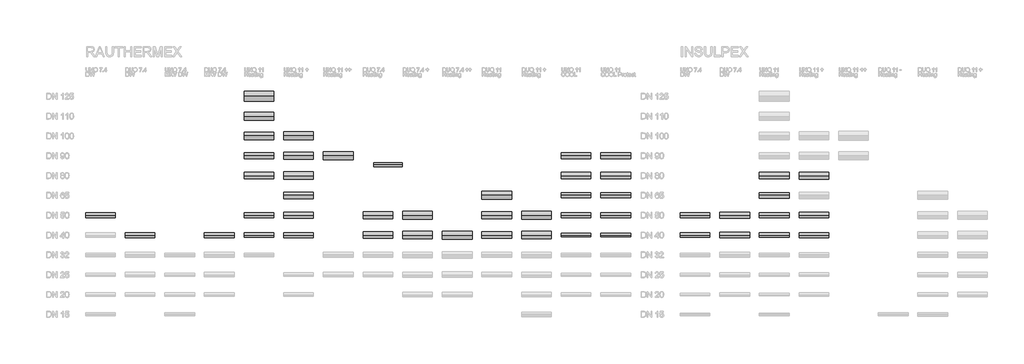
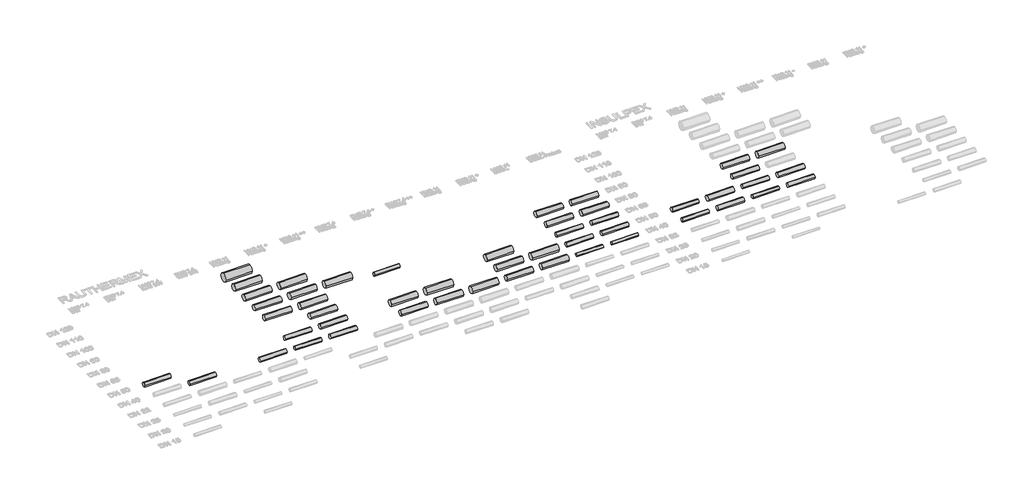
# One storey, part 6 of 44: 49 pipe segments.
"""IFC4 building model written with IfcOpenShell, lengths in millimetres."""

import ifcopenshell
import ifcopenshell.guid

model = None  # the IFC model being written
_history = None  # IfcOwnerHistory: only IFC2X3 demands one
_inside = {}  # id of a spatial element -> (the spatial element, [elements in it])
_under = {}  # id of a project, library or spatial element -> (it, [spatial elements below it])
_declared = {}  # id of a project -> (the project, [libraries it declares])
_typed = {}  # id of a type object -> (the type object, [elements of that type])
_made_of = {}  # id of a material, layer set ... -> (it, [elements and type objects made of it])


def new_model(schema):
    """Start an empty IFC model of exactly this schema.

    Asked for "IFC4X3", IfcOpenShell would pick the latest addendum, in which some entities
    have other attributes; the version numbers below select the first issue.
    IFC2X3 requires an IfcOwnerHistory on every rooted entity: one is made here for all.
    """
    global model, _history
    if schema == "IFC4X3":
        model = ifcopenshell.file(schema_version=(4, 3, 0, 0))
    else:
        model = ifcopenshell.file(schema=schema)
    _inside.clear()
    _under.clear()
    _declared.clear()
    _typed.clear()
    _made_of.clear()
    _history = None
    if model.schema == "IFC2X3":
        org = make("IfcOrganization", Name="unknown")
        user = make(
            "IfcPersonAndOrganization",
            ThePerson=make("IfcPerson", FamilyName="unknown"),
            TheOrganization=org,
        )
        app = make(
            "IfcApplication",
            ApplicationDeveloper=org,
            Version="unknown",
            ApplicationFullName="unknown",
            ApplicationIdentifier="unknown",
        )
        _history = make(
            "IfcOwnerHistory",
            OwningUser=user,
            OwningApplication=app,
            ChangeAction="ADDED",
            CreationDate=0,
        )
    return model


def make(cls, **values):
    """One entity of the class cls with the attributes given. An attribute that is None is left unset."""
    return model.create_entity(
        cls, **{name: value for name, value in values.items() if value is not None}
    )


def rooted(cls, **values):
    """An entity with a GlobalId (a new one), such as an element, a storey or a relation."""
    return make(cls, GlobalId=ifcopenshell.guid.new(), OwnerHistory=_history, **values)


def si_unit(unit_type, name, prefix=None):
    """IfcSIUnit, for example si_unit("LENGTHUNIT", "METRE", prefix="MILLI")."""
    return make("IfcSIUnit", UnitType=unit_type, Prefix=prefix, Name=name)


def assignment(units):
    """IfcUnitAssignment: the units of a project."""
    return None if units is None else make("IfcUnitAssignment", Units=units)


def point(xyz):
    """IfcCartesianPoint."""
    return None if xyz is None else make("IfcCartesianPoint", Coordinates=xyz)


def direction(xyz):
    """IfcDirection."""
    return None if xyz is None else make("IfcDirection", DirectionRatios=xyz)


def frame(location, z_axis=None, x_axis=None):
    """IfcAxis2Placement3D, a coordinate frame: its origin and axes. An axis left out is left unset."""
    return make(
        "IfcAxis2Placement3D",
        Location=point(location),
        Axis=direction(z_axis),
        RefDirection=direction(x_axis),
    )


def frame_2d(location, x_axis=None):
    """IfcAxis2Placement2D, a coordinate frame in the plane: its origin and x axis."""
    return make(
        "IfcAxis2Placement2D", Location=point(location), RefDirection=direction(x_axis)
    )


def origin():
    """The frame at (0, 0, 0) with its axes left unset."""
    return frame((0.0, 0.0, 0.0))


def place(relative_to, where):
    """IfcLocalPlacement: puts the frame where relative to a parent placement (None: the world)."""
    return make(
        "IfcLocalPlacement", PlacementRelTo=relative_to, RelativePlacement=where
    )


def context(
    kind, dimensions, precision=None, world=None, true_north=None, identifier=None
):
    """IfcGeometricRepresentationContext, for example the 3D "Model" context."""
    return make(
        "IfcGeometricRepresentationContext",
        ContextIdentifier=identifier,
        ContextType=kind,
        CoordinateSpaceDimension=dimensions,
        Precision=precision,
        WorldCoordinateSystem=world,
        TrueNorth=true_north,
    )


def project(units=None, contexts=None):
    """IfcProject with its units and contexts."""
    return rooted(
        "IfcProject",
        Name="project",
        RepresentationContexts=contexts,
        UnitsInContext=assignment(units),
    )


def spatial(cls, under=None, at=None, **own):
    """A site, building, storey or space (cls), placed at a placement, below another one or the project."""
    s = rooted(cls, ObjectPlacement=at, **own)
    if under is not None:
        _under.setdefault(under.id(), (under, []))[1].append(s)
    return s


def circle_curve(where, radius):
    """IfcCircle in the frame where."""
    return make("IfcCircle", Position=where, Radius=radius)


def trimmed(basis, trim1, trim2, sense, master):
    """IfcTrimmedCurve: the piece of a basis curve between two trims."""
    return make(
        "IfcTrimmedCurve",
        BasisCurve=basis,
        Trim1=trim1,
        Trim2=trim2,
        SenseAgreement=sense,
        MasterRepresentation=master,
    )


def segment(curve, same_sense, transition):
    """IfcCompositeCurveSegment."""
    return make(
        "IfcCompositeCurveSegment",
        Transition=transition,
        SameSense=same_sense,
        ParentCurve=curve,
    )


def composite_curve(segments, self_intersect=None):
    """IfcCompositeCurve: segments joined end to end."""
    return make("IfcCompositeCurve", Segments=segments, SelfIntersect=self_intersect)


def outline(outer, holes=None, kind="AREA"):
    """IfcArbitraryClosedProfileDef: a profile drawn as a closed curve; with holes, ...WithVoids."""
    if holes is None:
        return make("IfcArbitraryClosedProfileDef", ProfileType=kind, OuterCurve=outer)
    return make(
        "IfcArbitraryProfileDefWithVoids",
        ProfileType=kind,
        OuterCurve=outer,
        InnerCurves=holes,
    )


def extrude(swept, where, along, depth):
    """IfcExtrudedAreaSolid: the profile swept, set in the frame where, extruded along a direction by depth."""
    return make(
        "IfcExtrudedAreaSolid",
        SweptArea=swept,
        Position=where,
        ExtrudedDirection=direction(along),
        Depth=depth,
    )


def shape(context_of_items, identifier, shape_type, items):
    """IfcShapeRepresentation: the items that make up one representation, for example the "Body"."""
    return make(
        "IfcShapeRepresentation",
        ContextOfItems=context_of_items,
        RepresentationIdentifier=identifier,
        RepresentationType=shape_type,
        Items=items,
    )


def made_of(thing, what):
    """Note that an element or type object is made of a material, layer set ...; save() writes the relation."""
    if what is not None:
        _made_of.setdefault(what.id(), (what, []))[1].append(thing)
    return thing


def element(
    cls,
    number,
    at=None,
    inside=None,
    cuts=None,
    type_object=None,
    material=None,
    context=None,
    identifier="Body",
    shape_type=None,
    held_by="IfcProductDefinitionShape",
    body=None,
    shapes=None,
    **own,
):
    """One element of the class cls, such as IfcWall. Its Tag is "e" and its number.

    at: its placement. inside: the storey or other place that contains it. cuts: it is an
    opening in that element (IfcRelVoidsElement). A single representation is given by context,
    identifier, shape_type and body (its items); several are given by shapes. held_by: the class
    of the entity that holds the representations. save() writes the other relations.
    """
    e = rooted(cls, Tag="e%d" % number, ObjectPlacement=at, **own)
    if body is not None:
        shapes = [shape(context, identifier, shape_type, body)]
    if shapes is not None:
        e.Representation = make(held_by, Representations=shapes)
    if inside is not None:
        _inside.setdefault(inside.id(), (inside, []))[1].append(e)
    if cuts is not None:
        rooted(
            "IfcRelVoidsElement", RelatingBuildingElement=cuts, RelatedOpeningElement=e
        )
    if type_object is not None:
        _typed.setdefault(type_object.id(), (type_object, []))[1].append(e)
    return made_of(e, material)


def aggregate(whole, parts):
    """IfcRelAggregates: a whole, such as a stair, and the parts it consists of."""
    return rooted("IfcRelAggregates", RelatingObject=whole, RelatedObjects=parts)


def save(model, path):
    """Write the relations noted so far, then the file.

    IfcRelAggregates (storeys below a building ...), IfcRelContainedInSpatialStructure (elements
    in a storey), IfcRelDefinesByType, IfcRelAssociatesMaterial and IfcRelDeclares: one each for
    every whole, place, type object, material and project.
    """
    for whole, parts in _under.values():
        aggregate(whole, parts)
    for where, things in _inside.values():
        rooted(
            "IfcRelContainedInSpatialStructure",
            RelatedElements=things,
            RelatingStructure=where,
        )
    for kind, things in _typed.values():
        rooted("IfcRelDefinesByType", RelatedObjects=things, RelatingType=kind)
    for what, things in _made_of.values():
        rooted("IfcRelAssociatesMaterial", RelatedObjects=things, RelatingMaterial=what)
    for by, libraries in _declared.values():
        rooted("IfcRelDeclares", RelatingContext=by, RelatedDefinitions=libraries)
    model.write(path)


model = new_model("IFC4")

# Units and contexts
model_context = context("Model", 3, world=origin())
ifc_project = project(units=[si_unit("LENGTHUNIT", "METRE", prefix="MILLI")], contexts=[model_context])

# Site, building, storey
site = spatial("IfcSite", under=ifc_project)
building = spatial("IfcBuilding", under=site)
storey = spatial("IfcBuildingStorey", under=building, Name="REHAU Starting view", Elevation=0.0)

# Pipe segments
placement = place(None, origin())
element("IfcPipeSegment", 1, ObjectType="RAUTHERMEX UNO 7.4 DW", at=placement, inside=storey, context=model_context, shape_type="SweptSolid", body=[
    extrude(outline(composite_curve([segment(trimmed(circle_curve(frame_2d((16500.0, 0.0)), 63.0), [point((16437.0, 0.0))], [point((16500.0, 63.0))], False, "CARTESIAN"), True, "CONTINUOUS"), segment(trimmed(circle_curve(frame_2d((16500.0, 0.0)), 63.0), [point((16500.0, 63.0))], [point((16563.0, 0.0))], False, "CARTESIAN"), True, "CONTINUOUS"), segment(trimmed(circle_curve(frame_2d((16500.0, 0.0)), 63.0), [point((16563.0, 0.0))], [point((16500.0, -63.0))], False, "CARTESIAN"), True, "CONTINUOUS"), segment(trimmed(circle_curve(frame_2d((16500.0, 0.0)), 63.0), [point((16500.0, -63.0))], [point((16437.0, 0.0))], False, "CARTESIAN"), True, "CONTINUOUS")], self_intersect=False)), frame((1000.0, 0.0, 0.0), z_axis=(1.0, 0.0, 0.0), x_axis=(0.0, 1.0, 0.0)), (0.0, 0.0, 1.0), 750.0),
])
element("IfcPipeSegment", 2, ObjectType="RAUTHERMEX DUO 7.4 DW", at=placement, inside=storey, context=model_context, shape_type="SweptSolid", body=[
    extrude(outline(composite_curve([segment(trimmed(circle_curve(frame_2d((16000.0, 0.0)), 63.0), [point((15937.0, 0.0))], [point((16000.0, 63.0))], False, "CARTESIAN"), True, "CONTINUOUS"), segment(trimmed(circle_curve(frame_2d((16000.0, 0.0)), 63.0), [point((16000.0, 63.0))], [point((16063.0, 0.0))], False, "CARTESIAN"), True, "CONTINUOUS"), segment(trimmed(circle_curve(frame_2d((16000.0, 0.0)), 63.0), [point((16063.0, 0.0))], [point((16000.0, -63.0))], False, "CARTESIAN"), True, "CONTINUOUS"), segment(trimmed(circle_curve(frame_2d((16000.0, 0.0)), 63.0), [point((16000.0, -63.0))], [point((15937.0, 0.0))], False, "CARTESIAN"), True, "CONTINUOUS")], self_intersect=False)), frame((2000.0, 0.0, 0.0), z_axis=(1.0, 0.0, 0.0), x_axis=(0.0, 1.0, 0.0)), (0.0, 0.0, 1.0), 750.0),
])
element("IfcPipeSegment", 3, ObjectType="RAUTHERMEX DUO 7.4 MKV DW", at=placement, inside=storey, context=model_context, shape_type="SweptSolid", body=[
    extrude(outline(composite_curve([segment(trimmed(circle_curve(frame_2d((16000.0, 0.0)), 63.0), [point((15937.0, 0.0))], [point((16000.0, 63.0))], False, "CARTESIAN"), True, "CONTINUOUS"), segment(trimmed(circle_curve(frame_2d((16000.0, 0.0)), 63.0), [point((16000.0, 63.0))], [point((16063.0, 0.0))], False, "CARTESIAN"), True, "CONTINUOUS"), segment(trimmed(circle_curve(frame_2d((16000.0, 0.0)), 63.0), [point((16063.0, 0.0))], [point((16000.0, -63.0))], False, "CARTESIAN"), True, "CONTINUOUS"), segment(trimmed(circle_curve(frame_2d((16000.0, 0.0)), 63.0), [point((16000.0, -63.0))], [point((15937.0, 0.0))], False, "CARTESIAN"), True, "CONTINUOUS")], self_intersect=False)), frame((4000.0, 0.0, 0.0), z_axis=(1.0, 0.0, 0.0), x_axis=(0.0, 1.0, 0.0)), (0.0, 0.0, 1.0), 750.0),
])
element("IfcPipeSegment", 4, ObjectType="RAUTHERMEX UNO 11 Heating", at=placement, inside=storey, context=model_context, shape_type="SweptSolid", body=[
    extrude(outline(composite_curve([segment(trimmed(circle_curve(frame_2d((16000.0, 0.0)), 55.5), [point((15944.5, 0.0))], [point((16000.0, 55.5))], False, "CARTESIAN"), True, "CONTINUOUS"), segment(trimmed(circle_curve(frame_2d((16000.0, 0.0)), 55.5), [point((16000.0, 55.5))], [point((16055.5, 0.0))], False, "CARTESIAN"), True, "CONTINUOUS"), segment(trimmed(circle_curve(frame_2d((16000.0, 0.0)), 55.5), [point((16055.5, 0.0))], [point((16000.0, -55.5))], False, "CARTESIAN"), True, "CONTINUOUS"), segment(trimmed(circle_curve(frame_2d((16000.0, 0.0)), 55.5), [point((16000.0, -55.5))], [point((15944.5, 0.0))], False, "CARTESIAN"), True, "CONTINUOUS")], self_intersect=False)), frame((5000.0, 0.0, 0.0), z_axis=(1.0, 0.0, 0.0), x_axis=(0.0, 1.0, 0.0)), (0.0, 0.0, 1.0), 750.0),
])
element("IfcPipeSegment", 5, ObjectType="RAUTHERMEX UNO 11 Heating", at=placement, inside=storey, context=model_context, shape_type="SweptSolid", body=[
    extrude(outline(composite_curve([segment(trimmed(circle_curve(frame_2d((16500.0, 0.0)), 63.0), [point((16437.0, 0.0))], [point((16500.0, 63.0))], False, "CARTESIAN"), True, "CONTINUOUS"), segment(trimmed(circle_curve(frame_2d((16500.0, 0.0)), 63.0), [point((16500.0, 63.0))], [point((16563.0, 0.0))], False, "CARTESIAN"), True, "CONTINUOUS"), segment(trimmed(circle_curve(frame_2d((16500.0, 0.0)), 63.0), [point((16563.0, 0.0))], [point((16500.0, -63.0))], False, "CARTESIAN"), True, "CONTINUOUS"), segment(trimmed(circle_curve(frame_2d((16500.0, 0.0)), 63.0), [point((16500.0, -63.0))], [point((16437.0, 0.0))], False, "CARTESIAN"), True, "CONTINUOUS")], self_intersect=False)), frame((5000.0, 0.0, 0.0), z_axis=(1.0, 0.0, 0.0), x_axis=(0.0, 1.0, 0.0)), (0.0, 0.0, 1.0), 750.0),
])
element("IfcPipeSegment", 6, ObjectType="RAUTHERMEX UNO 11 Heating", at=placement, inside=storey, context=model_context, shape_type="SweptSolid", body=[
    extrude(outline(composite_curve([segment(trimmed(circle_curve(frame_2d((17500.0, 0.0)), 81.0), [point((17419.0, 0.0))], [point((17500.0, 81.0))], False, "CARTESIAN"), True, "CONTINUOUS"), segment(trimmed(circle_curve(frame_2d((17500.0, 0.0)), 81.0), [point((17500.0, 81.0))], [point((17581.0, 0.0))], False, "CARTESIAN"), True, "CONTINUOUS"), segment(trimmed(circle_curve(frame_2d((17500.0, 0.0)), 81.0), [point((17581.0, 0.0))], [point((17500.0, -81.0))], False, "CARTESIAN"), True, "CONTINUOUS"), segment(trimmed(circle_curve(frame_2d((17500.0, 0.0)), 81.0), [point((17500.0, -81.0))], [point((17419.0, 0.0))], False, "CARTESIAN"), True, "CONTINUOUS")], self_intersect=False)), frame((5000.0, 0.0, 0.0), z_axis=(1.0, 0.0, 0.0), x_axis=(0.0, 1.0, 0.0)), (0.0, 0.0, 1.0), 750.0),
])
element("IfcPipeSegment", 7, ObjectType="RAUTHERMEX UNO 11 Heating", at=placement, inside=storey, context=model_context, shape_type="SweptSolid", body=[
    extrude(outline(composite_curve([segment(trimmed(circle_curve(frame_2d((18000.0, 0.0)), 81.0), [point((17919.0, 0.0))], [point((18000.0, 81.0))], False, "CARTESIAN"), True, "CONTINUOUS"), segment(trimmed(circle_curve(frame_2d((18000.0, 0.0)), 81.0), [point((18000.0, 81.0))], [point((18081.0, 0.0))], False, "CARTESIAN"), True, "CONTINUOUS"), segment(trimmed(circle_curve(frame_2d((18000.0, 0.0)), 81.0), [point((18081.0, 0.0))], [point((18000.0, -81.0))], False, "CARTESIAN"), True, "CONTINUOUS"), segment(trimmed(circle_curve(frame_2d((18000.0, 0.0)), 81.0), [point((18000.0, -81.0))], [point((17919.0, 0.0))], False, "CARTESIAN"), True, "CONTINUOUS")], self_intersect=False)), frame((5000.0, 0.0, 0.0), z_axis=(1.0, 0.0, 0.0), x_axis=(0.0, 1.0, 0.0)), (0.0, 0.0, 1.0), 750.0),
])
element("IfcPipeSegment", 8, ObjectType="RAUTHERMEX UNO 11 Heating", at=placement, inside=storey, context=model_context, shape_type="SweptSolid", body=[
    extrude(outline(composite_curve([segment(trimmed(circle_curve(frame_2d((18500.0, 0.0)), 91.0), [point((18409.0, 0.0))], [point((18500.0, 91.0))], False, "CARTESIAN"), True, "CONTINUOUS"), segment(trimmed(circle_curve(frame_2d((18500.0, 0.0)), 91.0), [point((18500.0, 91.0))], [point((18591.0, 0.0))], False, "CARTESIAN"), True, "CONTINUOUS"), segment(trimmed(circle_curve(frame_2d((18500.0, 0.0)), 91.0), [point((18591.0, 0.0))], [point((18500.0, -91.0))], False, "CARTESIAN"), True, "CONTINUOUS"), segment(trimmed(circle_curve(frame_2d((18500.0, 0.0)), 91.0), [point((18500.0, -91.0))], [point((18409.0, 0.0))], False, "CARTESIAN"), True, "CONTINUOUS")], self_intersect=False)), frame((5000.0, 0.0, 0.0), z_axis=(1.0, 0.0, 0.0), x_axis=(0.0, 1.0, 0.0)), (0.0, 0.0, 1.0), 750.0),
])
element("IfcPipeSegment", 9, ObjectType="RAUTHERMEX UNO 11 Heating", at=placement, inside=storey, context=model_context, shape_type="SweptSolid", body=[
    extrude(outline(composite_curve([segment(trimmed(circle_curve(frame_2d((19000.0, 0.0)), 101.0), [point((18899.0, 0.0))], [point((19000.0, 101.0))], False, "CARTESIAN"), True, "CONTINUOUS"), segment(trimmed(circle_curve(frame_2d((19000.0, 0.0)), 101.0), [point((19000.0, 101.0))], [point((19101.0, 0.0))], False, "CARTESIAN"), True, "CONTINUOUS"), segment(trimmed(circle_curve(frame_2d((19000.0, 0.0)), 101.0), [point((19101.0, 0.0))], [point((19000.0, -101.0))], False, "CARTESIAN"), True, "CONTINUOUS"), segment(trimmed(circle_curve(frame_2d((19000.0, 0.0)), 101.0), [point((19000.0, -101.0))], [point((18899.0, 0.0))], False, "CARTESIAN"), True, "CONTINUOUS")], self_intersect=False)), frame((5000.0, 0.0, 0.0), z_axis=(1.0, 0.0, 0.0), x_axis=(0.0, 1.0, 0.0)), (0.0, 0.0, 1.0), 750.0),
])
element("IfcPipeSegment", 10, ObjectType="RAUTHERMEX UNO 11 Heating", at=placement, inside=storey, context=model_context, shape_type="SweptSolid", body=[
    extrude(outline(composite_curve([segment(trimmed(circle_curve(frame_2d((19500.0, 0.0)), 125.0), [point((19375.0, 0.0))], [point((19500.0, 125.0))], False, "CARTESIAN"), True, "CONTINUOUS"), segment(trimmed(circle_curve(frame_2d((19500.0, 0.0)), 125.0), [point((19500.0, 125.0))], [point((19625.0, 0.0))], False, "CARTESIAN"), True, "CONTINUOUS"), segment(trimmed(circle_curve(frame_2d((19500.0, 0.0)), 125.0), [point((19625.0, 0.0))], [point((19500.0, -125.0))], False, "CARTESIAN"), True, "CONTINUOUS"), segment(trimmed(circle_curve(frame_2d((19500.0, 0.0)), 125.0), [point((19500.0, -125.0))], [point((19375.0, 0.0))], False, "CARTESIAN"), True, "CONTINUOUS")], self_intersect=False)), frame((5000.0, 0.0, 0.0), z_axis=(1.0, 0.0, 0.0), x_axis=(0.0, 1.0, 0.0)), (0.0, 0.0, 1.0), 750.0),
])
element("IfcPipeSegment", 11, ObjectType="RAUTHERMEX UNO + 11 Heating", at=placement, inside=storey, context=model_context, shape_type="SweptSolid", body=[
    extrude(outline(composite_curve([segment(trimmed(circle_curve(frame_2d((16000.0, 0.0)), 63.0), [point((15937.0, 0.0))], [point((16000.0, 63.0))], False, "CARTESIAN"), True, "CONTINUOUS"), segment(trimmed(circle_curve(frame_2d((16000.0, 0.0)), 63.0), [point((16000.0, 63.0))], [point((16063.0, 0.0))], False, "CARTESIAN"), True, "CONTINUOUS"), segment(trimmed(circle_curve(frame_2d((16000.0, 0.0)), 63.0), [point((16063.0, 0.0))], [point((16000.0, -63.0))], False, "CARTESIAN"), True, "CONTINUOUS"), segment(trimmed(circle_curve(frame_2d((16000.0, 0.0)), 63.0), [point((16000.0, -63.0))], [point((15937.0, 0.0))], False, "CARTESIAN"), True, "CONTINUOUS")], self_intersect=False)), frame((6000.0, 0.0, 0.0), z_axis=(1.0, 0.0, 0.0), x_axis=(0.0, 1.0, 0.0)), (0.0, 0.0, 1.0), 750.0),
])
element("IfcPipeSegment", 12, ObjectType="RAUTHERMEX UNO + 11 Heating", at=placement, inside=storey, context=model_context, shape_type="SweptSolid", body=[
    extrude(outline(composite_curve([segment(trimmed(circle_curve(frame_2d((16500.0, 0.0)), 71.0), [point((16429.0, 0.0))], [point((16500.0, 71.0))], False, "CARTESIAN"), True, "CONTINUOUS"), segment(trimmed(circle_curve(frame_2d((16500.0, 0.0)), 71.0), [point((16500.0, 71.0))], [point((16571.0, 0.0))], False, "CARTESIAN"), True, "CONTINUOUS"), segment(trimmed(circle_curve(frame_2d((16500.0, 0.0)), 71.0), [point((16571.0, 0.0))], [point((16500.0, -71.0))], False, "CARTESIAN"), True, "CONTINUOUS"), segment(trimmed(circle_curve(frame_2d((16500.0, 0.0)), 71.0), [point((16500.0, -71.0))], [point((16429.0, 0.0))], False, "CARTESIAN"), True, "CONTINUOUS")], self_intersect=False)), frame((6000.0, 0.0, 0.0), z_axis=(1.0, 0.0, 0.0), x_axis=(0.0, 1.0, 0.0)), (0.0, 0.0, 1.0), 750.0),
])
element("IfcPipeSegment", 13, ObjectType="RAUTHERMEX UNO + 11 Heating", at=placement, inside=storey, context=model_context, shape_type="SweptSolid", body=[
    extrude(outline(composite_curve([segment(trimmed(circle_curve(frame_2d((17500.0, 0.0)), 91.0), [point((17409.0, 0.0))], [point((17500.0, 91.0))], False, "CARTESIAN"), True, "CONTINUOUS"), segment(trimmed(circle_curve(frame_2d((17500.0, 0.0)), 91.0), [point((17500.0, 91.0))], [point((17591.0, 0.0))], False, "CARTESIAN"), True, "CONTINUOUS"), segment(trimmed(circle_curve(frame_2d((17500.0, 0.0)), 91.0), [point((17591.0, 0.0))], [point((17500.0, -91.0))], False, "CARTESIAN"), True, "CONTINUOUS"), segment(trimmed(circle_curve(frame_2d((17500.0, 0.0)), 91.0), [point((17500.0, -91.0))], [point((17409.0, 0.0))], False, "CARTESIAN"), True, "CONTINUOUS")], self_intersect=False)), frame((6000.0, 0.0, 0.0), z_axis=(1.0, 0.0, 0.0), x_axis=(0.0, 1.0, 0.0)), (0.0, 0.0, 1.0), 750.0),
])
element("IfcPipeSegment", 14, ObjectType="RAUTHERMEX UNO + 11 Heating", at=placement, inside=storey, context=model_context, shape_type="SweptSolid", body=[
    extrude(outline(composite_curve([segment(trimmed(circle_curve(frame_2d((18000.0, 0.0)), 91.0), [point((17909.0, 0.0))], [point((18000.0, 91.0))], False, "CARTESIAN"), True, "CONTINUOUS"), segment(trimmed(circle_curve(frame_2d((18000.0, 0.0)), 91.0), [point((18000.0, 91.0))], [point((18091.0, 0.0))], False, "CARTESIAN"), True, "CONTINUOUS"), segment(trimmed(circle_curve(frame_2d((18000.0, 0.0)), 91.0), [point((18091.0, 0.0))], [point((18000.0, -91.0))], False, "CARTESIAN"), True, "CONTINUOUS"), segment(trimmed(circle_curve(frame_2d((18000.0, 0.0)), 91.0), [point((18000.0, -91.0))], [point((17909.0, 0.0))], False, "CARTESIAN"), True, "CONTINUOUS")], self_intersect=False)), frame((6000.0, 0.0, 0.0), z_axis=(1.0, 0.0, 0.0), x_axis=(0.0, 1.0, 0.0)), (0.0, 0.0, 1.0), 750.0),
])
element("IfcPipeSegment", 15, ObjectType="RAUTHERMEX UNO + 11 Heating", at=placement, inside=storey, context=model_context, shape_type="SweptSolid", body=[
    extrude(outline(composite_curve([segment(trimmed(circle_curve(frame_2d((18500.0, 0.0)), 101.0), [point((18399.0, 0.0))], [point((18500.0, 101.0))], False, "CARTESIAN"), True, "CONTINUOUS"), segment(trimmed(circle_curve(frame_2d((18500.0, 0.0)), 101.0), [point((18500.0, 101.0))], [point((18601.0, 0.0))], False, "CARTESIAN"), True, "CONTINUOUS"), segment(trimmed(circle_curve(frame_2d((18500.0, 0.0)), 101.0), [point((18601.0, 0.0))], [point((18500.0, -101.0))], False, "CARTESIAN"), True, "CONTINUOUS"), segment(trimmed(circle_curve(frame_2d((18500.0, 0.0)), 101.0), [point((18500.0, -101.0))], [point((18399.0, 0.0))], False, "CARTESIAN"), True, "CONTINUOUS")], self_intersect=False)), frame((6000.0, 0.0, 0.0), z_axis=(1.0, 0.0, 0.0), x_axis=(0.0, 1.0, 0.0)), (0.0, 0.0, 1.0), 750.0),
])
element("IfcPipeSegment", 16, ObjectType="RAUTHERMEX UNO + 11 Heating", at=placement, inside=storey, context=model_context, shape_type="SweptSolid", body=[
    extrude(outline(composite_curve([segment(trimmed(circle_curve(frame_2d((17000.0, 0.0)), 81.0), [point((16919.0, 0.0))], [point((17000.0, 81.0))], False, "CARTESIAN"), True, "CONTINUOUS"), segment(trimmed(circle_curve(frame_2d((17000.0, 0.0)), 81.0), [point((17000.0, 81.0))], [point((17081.0, 0.0))], False, "CARTESIAN"), True, "CONTINUOUS"), segment(trimmed(circle_curve(frame_2d((17000.0, 0.0)), 81.0), [point((17081.0, 0.0))], [point((17000.0, -81.0))], False, "CARTESIAN"), True, "CONTINUOUS"), segment(trimmed(circle_curve(frame_2d((17000.0, 0.0)), 81.0), [point((17000.0, -81.0))], [point((16919.0, 0.0))], False, "CARTESIAN"), True, "CONTINUOUS")], self_intersect=False)), frame((6000.0, 0.0, 0.0), z_axis=(1.0, 0.0, 0.0), x_axis=(0.0, 1.0, 0.0)), (0.0, 0.0, 1.0), 750.0),
])
element("IfcPipeSegment", 17, ObjectType="RAUTHERMEX UNO ++ 11 Heating", at=placement, inside=storey, context=model_context, shape_type="SweptSolid", body=[
    extrude(outline(composite_curve([segment(trimmed(circle_curve(frame_2d((18000.0, 0.0)), 101.0), [point((17899.0, 0.0))], [point((18000.0, 101.0))], False, "CARTESIAN"), True, "CONTINUOUS"), segment(trimmed(circle_curve(frame_2d((18000.0, 0.0)), 101.0), [point((18000.0, 101.0))], [point((18101.0, 0.0))], False, "CARTESIAN"), True, "CONTINUOUS"), segment(trimmed(circle_curve(frame_2d((18000.0, 0.0)), 101.0), [point((18101.0, 0.0))], [point((18000.0, -101.0))], False, "CARTESIAN"), True, "CONTINUOUS"), segment(trimmed(circle_curve(frame_2d((18000.0, 0.0)), 101.0), [point((18000.0, -101.0))], [point((17899.0, 0.0))], False, "CARTESIAN"), True, "CONTINUOUS")], self_intersect=False)), frame((7000.0, 0.0, 0.0), z_axis=(1.0, 0.0, 0.0), x_axis=(0.0, 1.0, 0.0)), (0.0, 0.0, 1.0), 750.0),
])
element("IfcPipeSegment", 18, ObjectType="RAUTHERMEX DUO + 7.4 Heating", at=placement, inside=storey, context=model_context, shape_type="SweptSolid", body=[
    extrude(outline(composite_curve([segment(trimmed(circle_curve(frame_2d((16000.0, 0.0)), 91.0), [point((15909.0, 0.0))], [point((16000.0, 91.0))], False, "CARTESIAN"), True, "CONTINUOUS"), segment(trimmed(circle_curve(frame_2d((16000.0, 0.0)), 91.0), [point((16000.0, 91.0))], [point((16091.0, 0.0))], False, "CARTESIAN"), True, "CONTINUOUS"), segment(trimmed(circle_curve(frame_2d((16000.0, 0.0)), 91.0), [point((16091.0, 0.0))], [point((16000.0, -91.0))], False, "CARTESIAN"), True, "CONTINUOUS"), segment(trimmed(circle_curve(frame_2d((16000.0, 0.0)), 91.0), [point((16000.0, -91.0))], [point((15909.0, 0.0))], False, "CARTESIAN"), True, "CONTINUOUS")], self_intersect=False)), frame((9000.0, 0.0, 0.0), z_axis=(1.0, 0.0, 0.0), x_axis=(0.0, 1.0, 0.0)), (0.0, 0.0, 1.0), 750.0),
])
element("IfcPipeSegment", 19, ObjectType="RAUTHERMEX DUO + 7.4 Heating", at=placement, inside=storey, context=model_context, shape_type="SweptSolid", body=[
    extrude(outline(composite_curve([segment(trimmed(circle_curve(frame_2d((16500.0, 0.0)), 101.0), [point((16399.0, 0.0))], [point((16500.0, 101.0))], False, "CARTESIAN"), True, "CONTINUOUS"), segment(trimmed(circle_curve(frame_2d((16500.0, 0.0)), 101.0), [point((16500.0, 101.0))], [point((16601.0, 0.0))], False, "CARTESIAN"), True, "CONTINUOUS"), segment(trimmed(circle_curve(frame_2d((16500.0, 0.0)), 101.0), [point((16601.0, 0.0))], [point((16500.0, -101.0))], False, "CARTESIAN"), True, "CONTINUOUS"), segment(trimmed(circle_curve(frame_2d((16500.0, 0.0)), 101.0), [point((16500.0, -101.0))], [point((16399.0, 0.0))], False, "CARTESIAN"), True, "CONTINUOUS")], self_intersect=False)), frame((9000.0, 0.0, 0.0), z_axis=(1.0, 0.0, 0.0), x_axis=(0.0, 1.0, 0.0)), (0.0, 0.0, 1.0), 750.0),
])
element("IfcPipeSegment", 20, ObjectType="RAUTHERMEX DUO 7.4 Heating", at=placement, inside=storey, context=model_context, shape_type="SweptSolid", body=[
    extrude(outline(composite_curve([segment(trimmed(circle_curve(frame_2d((16000.0, 0.0)), 81.0), [point((15919.0, 0.0))], [point((16000.0, 81.0))], False, "CARTESIAN"), True, "CONTINUOUS"), segment(trimmed(circle_curve(frame_2d((16000.0, 0.0)), 81.0), [point((16000.0, 81.0))], [point((16081.0, 0.0))], False, "CARTESIAN"), True, "CONTINUOUS"), segment(trimmed(circle_curve(frame_2d((16000.0, 0.0)), 81.0), [point((16081.0, 0.0))], [point((16000.0, -81.0))], False, "CARTESIAN"), True, "CONTINUOUS"), segment(trimmed(circle_curve(frame_2d((16000.0, 0.0)), 81.0), [point((16000.0, -81.0))], [point((15919.0, 0.0))], False, "CARTESIAN"), True, "CONTINUOUS")], self_intersect=False)), frame((8000.0, 0.0, 0.0), z_axis=(1.0, 0.0, 0.0), x_axis=(0.0, 1.0, 0.0)), (0.0, 0.0, 1.0), 750.0),
])
element("IfcPipeSegment", 21, ObjectType="RAUTHERMEX DUO 7.4 Heating", at=placement, inside=storey, context=model_context, shape_type="SweptSolid", body=[
    extrude(outline(composite_curve([segment(trimmed(circle_curve(frame_2d((16500.0, 0.0)), 91.0), [point((16409.0, 0.0))], [point((16500.0, 91.0))], False, "CARTESIAN"), True, "CONTINUOUS"), segment(trimmed(circle_curve(frame_2d((16500.0, 0.0)), 91.0), [point((16500.0, 91.0))], [point((16591.0, 0.0))], False, "CARTESIAN"), True, "CONTINUOUS"), segment(trimmed(circle_curve(frame_2d((16500.0, 0.0)), 91.0), [point((16591.0, 0.0))], [point((16500.0, -91.0))], False, "CARTESIAN"), True, "CONTINUOUS"), segment(trimmed(circle_curve(frame_2d((16500.0, 0.0)), 91.0), [point((16500.0, -91.0))], [point((16409.0, 0.0))], False, "CARTESIAN"), True, "CONTINUOUS")], self_intersect=False)), frame((8000.0, 0.0, 0.0), z_axis=(1.0, 0.0, 0.0), x_axis=(0.0, 1.0, 0.0)), (0.0, 0.0, 1.0), 750.0),
])
element("IfcPipeSegment", 22, ObjectType="RAUTHERMEX DUO ++ 7.4 Heating", at=placement, inside=storey, context=model_context, shape_type="SweptSolid", body=[
    extrude(outline(composite_curve([segment(trimmed(circle_curve(frame_2d((16000.0, 0.0)), 101.0), [point((15899.0, 0.0))], [point((16000.0, 101.0))], False, "CARTESIAN"), True, "CONTINUOUS"), segment(trimmed(circle_curve(frame_2d((16000.0, 0.0)), 101.0), [point((16000.0, 101.0))], [point((16101.0, 0.0))], False, "CARTESIAN"), True, "CONTINUOUS"), segment(trimmed(circle_curve(frame_2d((16000.0, 0.0)), 101.0), [point((16101.0, 0.0))], [point((16000.0, -101.0))], False, "CARTESIAN"), True, "CONTINUOUS"), segment(trimmed(circle_curve(frame_2d((16000.0, 0.0)), 101.0), [point((16000.0, -101.0))], [point((15899.0, 0.0))], False, "CARTESIAN"), True, "CONTINUOUS")], self_intersect=False)), frame((10000.0, 0.0, 0.0), z_axis=(1.0, 0.0, 0.0), x_axis=(0.0, 1.0, 0.0)), (0.0, 0.0, 1.0), 750.0),
])
element("IfcPipeSegment", 23, ObjectType="RAUTHERMEX DUO 11 Heating", at=placement, inside=storey, context=model_context, shape_type="SweptSolid", body=[
    extrude(outline(composite_curve([segment(trimmed(circle_curve(frame_2d((16000.0, 0.0)), 81.0), [point((15919.0, 0.0))], [point((16000.0, 81.0))], False, "CARTESIAN"), True, "CONTINUOUS"), segment(trimmed(circle_curve(frame_2d((16000.0, 0.0)), 81.0), [point((16000.0, 81.0))], [point((16081.0, 0.0))], False, "CARTESIAN"), True, "CONTINUOUS"), segment(trimmed(circle_curve(frame_2d((16000.0, 0.0)), 81.0), [point((16081.0, 0.0))], [point((16000.0, -81.0))], False, "CARTESIAN"), True, "CONTINUOUS"), segment(trimmed(circle_curve(frame_2d((16000.0, 0.0)), 81.0), [point((16000.0, -81.0))], [point((15919.0, 0.0))], False, "CARTESIAN"), True, "CONTINUOUS")], self_intersect=False)), frame((11000.0, 0.0, 0.0), z_axis=(1.0, 0.0, 0.0), x_axis=(0.0, 1.0, 0.0)), (0.0, 0.0, 1.0), 750.0),
])
element("IfcPipeSegment", 24, ObjectType="RAUTHERMEX DUO 11 Heating", at=placement, inside=storey, context=model_context, shape_type="SweptSolid", body=[
    extrude(outline(composite_curve([segment(trimmed(circle_curve(frame_2d((16500.0, 0.0)), 91.0), [point((16409.0, 0.0))], [point((16500.0, 91.0))], False, "CARTESIAN"), True, "CONTINUOUS"), segment(trimmed(circle_curve(frame_2d((16500.0, 0.0)), 91.0), [point((16500.0, 91.0))], [point((16591.0, 0.0))], False, "CARTESIAN"), True, "CONTINUOUS"), segment(trimmed(circle_curve(frame_2d((16500.0, 0.0)), 91.0), [point((16591.0, 0.0))], [point((16500.0, -91.0))], False, "CARTESIAN"), True, "CONTINUOUS"), segment(trimmed(circle_curve(frame_2d((16500.0, 0.0)), 91.0), [point((16500.0, -91.0))], [point((16409.0, 0.0))], False, "CARTESIAN"), True, "CONTINUOUS")], self_intersect=False)), frame((11000.0, 0.0, 0.0), z_axis=(1.0, 0.0, 0.0), x_axis=(0.0, 1.0, 0.0)), (0.0, 0.0, 1.0), 750.0),
])
element("IfcPipeSegment", 25, ObjectType="RAUTHERMEX DUO 11 Heating", at=placement, inside=storey, context=model_context, shape_type="SweptSolid", body=[
    extrude(outline(composite_curve([segment(trimmed(circle_curve(frame_2d((17000.0, 0.0)), 101.0), [point((16899.0, 0.0))], [point((17000.0, 101.0))], False, "CARTESIAN"), True, "CONTINUOUS"), segment(trimmed(circle_curve(frame_2d((17000.0, 0.0)), 101.0), [point((17000.0, 101.0))], [point((17101.0, 0.0))], False, "CARTESIAN"), True, "CONTINUOUS"), segment(trimmed(circle_curve(frame_2d((17000.0, 0.0)), 101.0), [point((17101.0, 0.0))], [point((17000.0, -101.0))], False, "CARTESIAN"), True, "CONTINUOUS"), segment(trimmed(circle_curve(frame_2d((17000.0, 0.0)), 101.0), [point((17000.0, -101.0))], [point((16899.0, 0.0))], False, "CARTESIAN"), True, "CONTINUOUS")], self_intersect=False)), frame((11000.0, 0.0, 0.0), z_axis=(1.0, 0.0, 0.0), x_axis=(0.0, 1.0, 0.0)), (0.0, 0.0, 1.0), 750.0),
])
element("IfcPipeSegment", 26, ObjectType="RAUTHERMEX DUO + 11 Heating", at=placement, inside=storey, context=model_context, shape_type="SweptSolid", body=[
    extrude(outline(composite_curve([segment(trimmed(circle_curve(frame_2d((16000.0, 0.0)), 91.0), [point((15909.0, 0.0))], [point((16000.0, 91.0))], False, "CARTESIAN"), True, "CONTINUOUS"), segment(trimmed(circle_curve(frame_2d((16000.0, 0.0)), 91.0), [point((16000.0, 91.0))], [point((16091.0, 0.0))], False, "CARTESIAN"), True, "CONTINUOUS"), segment(trimmed(circle_curve(frame_2d((16000.0, 0.0)), 91.0), [point((16091.0, 0.0))], [point((16000.0, -91.0))], False, "CARTESIAN"), True, "CONTINUOUS"), segment(trimmed(circle_curve(frame_2d((16000.0, 0.0)), 91.0), [point((16000.0, -91.0))], [point((15909.0, 0.0))], False, "CARTESIAN"), True, "CONTINUOUS")], self_intersect=False)), frame((12000.0, 0.0, 0.0), z_axis=(1.0, 0.0, 0.0), x_axis=(0.0, 1.0, 0.0)), (0.0, 0.0, 1.0), 750.0),
])
element("IfcPipeSegment", 27, ObjectType="RAUTHERMEX DUO + 11 Heating", at=placement, inside=storey, context=model_context, shape_type="SweptSolid", body=[
    extrude(outline(composite_curve([segment(trimmed(circle_curve(frame_2d((16500.0, 0.0)), 101.0), [point((16399.0, 0.0))], [point((16500.0, 101.0))], False, "CARTESIAN"), True, "CONTINUOUS"), segment(trimmed(circle_curve(frame_2d((16500.0, 0.0)), 101.0), [point((16500.0, 101.0))], [point((16601.0, 0.0))], False, "CARTESIAN"), True, "CONTINUOUS"), segment(trimmed(circle_curve(frame_2d((16500.0, 0.0)), 101.0), [point((16601.0, 0.0))], [point((16500.0, -101.0))], False, "CARTESIAN"), True, "CONTINUOUS"), segment(trimmed(circle_curve(frame_2d((16500.0, 0.0)), 101.0), [point((16500.0, -101.0))], [point((16399.0, 0.0))], False, "CARTESIAN"), True, "CONTINUOUS")], self_intersect=False)), frame((12000.0, 0.0, 0.0), z_axis=(1.0, 0.0, 0.0), x_axis=(0.0, 1.0, 0.0)), (0.0, 0.0, 1.0), 750.0),
])
element("IfcPipeSegment", 28, ObjectType="RAUTHERMEX UNO 11 COOL", at=placement, inside=storey, context=model_context, shape_type="SweptSolid", body=[
    extrude(outline(composite_curve([segment(trimmed(circle_curve(frame_2d((16000.0, 0.0)), 45.5), [point((15954.5, 0.0))], [point((16000.0, 45.5))], False, "CARTESIAN"), True, "CONTINUOUS"), segment(trimmed(circle_curve(frame_2d((16000.0, 0.0)), 45.5), [point((16000.0, 45.5))], [point((16045.5, 0.0))], False, "CARTESIAN"), True, "CONTINUOUS"), segment(trimmed(circle_curve(frame_2d((16000.0, 0.0)), 45.5), [point((16045.5, 0.0))], [point((16000.0, -45.5))], False, "CARTESIAN"), True, "CONTINUOUS"), segment(trimmed(circle_curve(frame_2d((16000.0, 0.0)), 45.5), [point((16000.0, -45.5))], [point((15954.5, 0.0))], False, "CARTESIAN"), True, "CONTINUOUS")], self_intersect=False)), frame((13000.0, 0.0, 0.0), z_axis=(1.0, 0.0, 0.0), x_axis=(0.0, 1.0, 0.0)), (0.0, 0.0, 1.0), 750.0),
])
element("IfcPipeSegment", 29, ObjectType="RAUTHERMEX UNO 11 COOL", at=placement, inside=storey, context=model_context, shape_type="SweptSolid", body=[
    extrude(outline(composite_curve([segment(trimmed(circle_curve(frame_2d((16500.0, 0.0)), 63.0), [point((16437.0, 0.0))], [point((16500.0, 63.0))], False, "CARTESIAN"), True, "CONTINUOUS"), segment(trimmed(circle_curve(frame_2d((16500.0, 0.0)), 63.0), [point((16500.0, 63.0))], [point((16563.0, 0.0))], False, "CARTESIAN"), True, "CONTINUOUS"), segment(trimmed(circle_curve(frame_2d((16500.0, 0.0)), 63.0), [point((16563.0, 0.0))], [point((16500.0, -63.0))], False, "CARTESIAN"), True, "CONTINUOUS"), segment(trimmed(circle_curve(frame_2d((16500.0, 0.0)), 63.0), [point((16500.0, -63.0))], [point((16437.0, 0.0))], False, "CARTESIAN"), True, "CONTINUOUS")], self_intersect=False)), frame((13000.0, 0.0, 0.0), z_axis=(1.0, 0.0, 0.0), x_axis=(0.0, 1.0, 0.0)), (0.0, 0.0, 1.0), 750.0),
])
element("IfcPipeSegment", 30, ObjectType="RAUTHERMEX UNO 11 COOL", at=placement, inside=storey, context=model_context, shape_type="SweptSolid", body=[
    extrude(outline(composite_curve([segment(trimmed(circle_curve(frame_2d((17000.0, 0.0)), 63.0), [point((16937.0, 0.0))], [point((17000.0, 63.0))], False, "CARTESIAN"), True, "CONTINUOUS"), segment(trimmed(circle_curve(frame_2d((17000.0, 0.0)), 63.0), [point((17000.0, 63.0))], [point((17063.0, 0.0))], False, "CARTESIAN"), True, "CONTINUOUS"), segment(trimmed(circle_curve(frame_2d((17000.0, 0.0)), 63.0), [point((17063.0, 0.0))], [point((17000.0, -63.0))], False, "CARTESIAN"), True, "CONTINUOUS"), segment(trimmed(circle_curve(frame_2d((17000.0, 0.0)), 63.0), [point((17000.0, -63.0))], [point((16937.0, 0.0))], False, "CARTESIAN"), True, "CONTINUOUS")], self_intersect=False)), frame((13000.0, 0.0, 0.0), z_axis=(1.0, 0.0, 0.0), x_axis=(0.0, 1.0, 0.0)), (0.0, 0.0, 1.0), 750.0),
])
element("IfcPipeSegment", 31, ObjectType="RAUTHERMEX UNO 11 COOL", at=placement, inside=storey, context=model_context, shape_type="SweptSolid", body=[
    extrude(outline(composite_curve([segment(trimmed(circle_curve(frame_2d((17500.0, 0.0)), 81.0), [point((17419.0, 0.0))], [point((17500.0, 81.0))], False, "CARTESIAN"), True, "CONTINUOUS"), segment(trimmed(circle_curve(frame_2d((17500.0, 0.0)), 81.0), [point((17500.0, 81.0))], [point((17581.0, 0.0))], False, "CARTESIAN"), True, "CONTINUOUS"), segment(trimmed(circle_curve(frame_2d((17500.0, 0.0)), 81.0), [point((17581.0, 0.0))], [point((17500.0, -81.0))], False, "CARTESIAN"), True, "CONTINUOUS"), segment(trimmed(circle_curve(frame_2d((17500.0, 0.0)), 81.0), [point((17500.0, -81.0))], [point((17419.0, 0.0))], False, "CARTESIAN"), True, "CONTINUOUS")], self_intersect=False)), frame((13000.0, 0.0, 0.0), z_axis=(1.0, 0.0, 0.0), x_axis=(0.0, 1.0, 0.0)), (0.0, 0.0, 1.0), 750.0),
])
element("IfcPipeSegment", 32, ObjectType="RAUTHERMEX UNO 11 COOL", at=placement, inside=storey, context=model_context, shape_type="SweptSolid", body=[
    extrude(outline(composite_curve([segment(trimmed(circle_curve(frame_2d((18000.0, 0.0)), 81.0), [point((17919.0, 0.0))], [point((18000.0, 81.0))], False, "CARTESIAN"), True, "CONTINUOUS"), segment(trimmed(circle_curve(frame_2d((18000.0, 0.0)), 81.0), [point((18000.0, 81.0))], [point((18081.0, 0.0))], False, "CARTESIAN"), True, "CONTINUOUS"), segment(trimmed(circle_curve(frame_2d((18000.0, 0.0)), 81.0), [point((18081.0, 0.0))], [point((18000.0, -81.0))], False, "CARTESIAN"), True, "CONTINUOUS"), segment(trimmed(circle_curve(frame_2d((18000.0, 0.0)), 81.0), [point((18000.0, -81.0))], [point((17919.0, 0.0))], False, "CARTESIAN"), True, "CONTINUOUS")], self_intersect=False)), frame((13000.0, 0.0, 0.0), z_axis=(1.0, 0.0, 0.0), x_axis=(0.0, 1.0, 0.0)), (0.0, 0.0, 1.0), 750.0),
])
element("IfcPipeSegment", 33, ObjectType="RAUTHERMEX UNO 11 COOL Protect", at=placement, inside=storey, context=model_context, shape_type="SweptSolid", body=[
    extrude(outline(composite_curve([segment(trimmed(circle_curve(frame_2d((16000.0, 0.0)), 45.5), [point((15954.5, 0.0))], [point((16000.0, 45.5))], False, "CARTESIAN"), True, "CONTINUOUS"), segment(trimmed(circle_curve(frame_2d((16000.0, 0.0)), 45.5), [point((16000.0, 45.5))], [point((16045.5, 0.0))], False, "CARTESIAN"), True, "CONTINUOUS"), segment(trimmed(circle_curve(frame_2d((16000.0, 0.0)), 45.5), [point((16045.5, 0.0))], [point((16000.0, -45.5))], False, "CARTESIAN"), True, "CONTINUOUS"), segment(trimmed(circle_curve(frame_2d((16000.0, 0.0)), 45.5), [point((16000.0, -45.5))], [point((15954.5, 0.0))], False, "CARTESIAN"), True, "CONTINUOUS")], self_intersect=False)), frame((14000.0, 0.0, 0.0), z_axis=(1.0, 0.0, 0.0), x_axis=(0.0, 1.0, 0.0)), (0.0, 0.0, 1.0), 750.0),
])
element("IfcPipeSegment", 34, ObjectType="RAUTHERMEX UNO 11 COOL Protect", at=placement, inside=storey, context=model_context, shape_type="SweptSolid", body=[
    extrude(outline(composite_curve([segment(trimmed(circle_curve(frame_2d((16500.0, 0.0)), 63.0), [point((16437.0, 0.0))], [point((16500.0, 63.0))], False, "CARTESIAN"), True, "CONTINUOUS"), segment(trimmed(circle_curve(frame_2d((16500.0, 0.0)), 63.0), [point((16500.0, 63.0))], [point((16563.0, 0.0))], False, "CARTESIAN"), True, "CONTINUOUS"), segment(trimmed(circle_curve(frame_2d((16500.0, 0.0)), 63.0), [point((16563.0, 0.0))], [point((16500.0, -63.0))], False, "CARTESIAN"), True, "CONTINUOUS"), segment(trimmed(circle_curve(frame_2d((16500.0, 0.0)), 63.0), [point((16500.0, -63.0))], [point((16437.0, 0.0))], False, "CARTESIAN"), True, "CONTINUOUS")], self_intersect=False)), frame((14000.0, 0.0, 0.0), z_axis=(1.0, 0.0, 0.0), x_axis=(0.0, 1.0, 0.0)), (0.0, 0.0, 1.0), 750.0),
])
element("IfcPipeSegment", 35, ObjectType="RAUTHERMEX UNO 11 COOL Protect", at=placement, inside=storey, context=model_context, shape_type="SweptSolid", body=[
    extrude(outline(composite_curve([segment(trimmed(circle_curve(frame_2d((17000.0, 0.0)), 63.0), [point((16937.0, 0.0))], [point((17000.0, 63.0))], False, "CARTESIAN"), True, "CONTINUOUS"), segment(trimmed(circle_curve(frame_2d((17000.0, 0.0)), 63.0), [point((17000.0, 63.0))], [point((17063.0, 0.0))], False, "CARTESIAN"), True, "CONTINUOUS"), segment(trimmed(circle_curve(frame_2d((17000.0, 0.0)), 63.0), [point((17063.0, 0.0))], [point((17000.0, -63.0))], False, "CARTESIAN"), True, "CONTINUOUS"), segment(trimmed(circle_curve(frame_2d((17000.0, 0.0)), 63.0), [point((17000.0, -63.0))], [point((16937.0, 0.0))], False, "CARTESIAN"), True, "CONTINUOUS")], self_intersect=False)), frame((14000.0, 0.0, 0.0), z_axis=(1.0, 0.0, 0.0), x_axis=(0.0, 1.0, 0.0)), (0.0, 0.0, 1.0), 750.0),
])
element("IfcPipeSegment", 36, ObjectType="RAUTHERMEX UNO 11 COOL Protect", at=placement, inside=storey, context=model_context, shape_type="SweptSolid", body=[
    extrude(outline(composite_curve([segment(trimmed(circle_curve(frame_2d((17500.0, 0.0)), 81.0), [point((17419.0, 0.0))], [point((17500.0, 81.0))], False, "CARTESIAN"), True, "CONTINUOUS"), segment(trimmed(circle_curve(frame_2d((17500.0, 0.0)), 81.0), [point((17500.0, 81.0))], [point((17581.0, 0.0))], False, "CARTESIAN"), True, "CONTINUOUS"), segment(trimmed(circle_curve(frame_2d((17500.0, 0.0)), 81.0), [point((17581.0, 0.0))], [point((17500.0, -81.0))], False, "CARTESIAN"), True, "CONTINUOUS"), segment(trimmed(circle_curve(frame_2d((17500.0, 0.0)), 81.0), [point((17500.0, -81.0))], [point((17419.0, 0.0))], False, "CARTESIAN"), True, "CONTINUOUS")], self_intersect=False)), frame((14000.0, 0.0, 0.0), z_axis=(1.0, 0.0, 0.0), x_axis=(0.0, 1.0, 0.0)), (0.0, 0.0, 1.0), 750.0),
])
element("IfcPipeSegment", 37, ObjectType="RAUTHERMEX UNO 11 COOL Protect", at=placement, inside=storey, context=model_context, shape_type="SweptSolid", body=[
    extrude(outline(composite_curve([segment(trimmed(circle_curve(frame_2d((18000.0, 0.0)), 81.0), [point((17919.0, 0.0))], [point((18000.0, 81.0))], False, "CARTESIAN"), True, "CONTINUOUS"), segment(trimmed(circle_curve(frame_2d((18000.0, 0.0)), 81.0), [point((18000.0, 81.0))], [point((18081.0, 0.0))], False, "CARTESIAN"), True, "CONTINUOUS"), segment(trimmed(circle_curve(frame_2d((18000.0, 0.0)), 81.0), [point((18081.0, 0.0))], [point((18000.0, -81.0))], False, "CARTESIAN"), True, "CONTINUOUS"), segment(trimmed(circle_curve(frame_2d((18000.0, 0.0)), 81.0), [point((18000.0, -81.0))], [point((17919.0, 0.0))], False, "CARTESIAN"), True, "CONTINUOUS")], self_intersect=False)), frame((14000.0, 0.0, 0.0), z_axis=(1.0, 0.0, 0.0), x_axis=(0.0, 1.0, 0.0)), (0.0, 0.0, 1.0), 750.0),
])
element("IfcPipeSegment", 38, ObjectType="INSULPEX UNO 7.4 DW", at=placement, inside=storey, context=model_context, shape_type="SweptSolid", body=[
    extrude(outline(composite_curve([segment(trimmed(circle_curve(frame_2d((16000.0, 0.0)), 55.0), [point((15945.0, 0.0))], [point((16000.0, 55.0))], False, "CARTESIAN"), True, "CONTINUOUS"), segment(trimmed(circle_curve(frame_2d((16000.0, 0.0)), 55.0), [point((16000.0, 55.0))], [point((16055.0, 0.0))], False, "CARTESIAN"), True, "CONTINUOUS"), segment(trimmed(circle_curve(frame_2d((16000.0, 0.0)), 55.0), [point((16055.0, 0.0))], [point((16000.0, -55.0))], False, "CARTESIAN"), True, "CONTINUOUS"), segment(trimmed(circle_curve(frame_2d((16000.0, 0.0)), 55.0), [point((16000.0, -55.0))], [point((15945.0, 0.0))], False, "CARTESIAN"), True, "CONTINUOUS")], self_intersect=False)), frame((16000.0, 0.0, 0.0), z_axis=(1.0, 0.0, 0.0), x_axis=(0.0, 1.0, 0.0)), (0.0, 0.0, 1.0), 750.0),
])
element("IfcPipeSegment", 39, ObjectType="INSULPEX UNO 7.4 DW", at=placement, inside=storey, context=model_context, shape_type="SweptSolid", body=[
    extrude(outline(composite_curve([segment(trimmed(circle_curve(frame_2d((16500.0, 0.0)), 62.5), [point((16437.5, 0.0))], [point((16500.0, 62.5))], False, "CARTESIAN"), True, "CONTINUOUS"), segment(trimmed(circle_curve(frame_2d((16500.0, 0.0)), 62.5), [point((16500.0, 62.5))], [point((16562.5, 0.0))], False, "CARTESIAN"), True, "CONTINUOUS"), segment(trimmed(circle_curve(frame_2d((16500.0, 0.0)), 62.5), [point((16562.5, 0.0))], [point((16500.0, -62.5))], False, "CARTESIAN"), True, "CONTINUOUS"), segment(trimmed(circle_curve(frame_2d((16500.0, 0.0)), 62.5), [point((16500.0, -62.5))], [point((16437.5, 0.0))], False, "CARTESIAN"), True, "CONTINUOUS")], self_intersect=False)), frame((16000.0, 0.0, 0.0), z_axis=(1.0, 0.0, 0.0), x_axis=(0.0, 1.0, 0.0)), (0.0, 0.0, 1.0), 750.0),
])
element("IfcPipeSegment", 40, ObjectType="INSULPEX DUO 7.4 DW", at=placement, inside=storey, context=model_context, shape_type="SweptSolid", body=[
    extrude(outline(composite_curve([segment(trimmed(circle_curve(frame_2d((16000.0, 0.0)), 70.0), [point((15930.0, 0.0))], [point((16000.0, 70.0))], False, "CARTESIAN"), True, "CONTINUOUS"), segment(trimmed(circle_curve(frame_2d((16000.0, 0.0)), 70.0), [point((16000.0, 70.0))], [point((16070.0, 0.0))], False, "CARTESIAN"), True, "CONTINUOUS"), segment(trimmed(circle_curve(frame_2d((16000.0, 0.0)), 70.0), [point((16070.0, 0.0))], [point((16000.0, -70.0))], False, "CARTESIAN"), True, "CONTINUOUS"), segment(trimmed(circle_curve(frame_2d((16000.0, 0.0)), 70.0), [point((16000.0, -70.0))], [point((15930.0, 0.0))], False, "CARTESIAN"), True, "CONTINUOUS")], self_intersect=False)), frame((17000.0, 0.0, 0.0), z_axis=(1.0, 0.0, 0.0), x_axis=(0.0, 1.0, 0.0)), (0.0, 0.0, 1.0), 750.0),
])
element("IfcPipeSegment", 41, ObjectType="INSULPEX DUO 7.4 DW", at=placement, inside=storey, context=model_context, shape_type="SweptSolid", body=[
    extrude(outline(composite_curve([segment(trimmed(circle_curve(frame_2d((16500.0, 0.0)), 80.0), [point((16420.0, 0.0))], [point((16500.0, 80.0))], False, "CARTESIAN"), True, "CONTINUOUS"), segment(trimmed(circle_curve(frame_2d((16500.0, 0.0)), 80.0), [point((16500.0, 80.0))], [point((16580.0, 0.0))], False, "CARTESIAN"), True, "CONTINUOUS"), segment(trimmed(circle_curve(frame_2d((16500.0, 0.0)), 80.0), [point((16580.0, 0.0))], [point((16500.0, -80.0))], False, "CARTESIAN"), True, "CONTINUOUS"), segment(trimmed(circle_curve(frame_2d((16500.0, 0.0)), 80.0), [point((16500.0, -80.0))], [point((16420.0, 0.0))], False, "CARTESIAN"), True, "CONTINUOUS")], self_intersect=False)), frame((17000.0, 0.0, 0.0), z_axis=(1.0, 0.0, 0.0), x_axis=(0.0, 1.0, 0.0)), (0.0, 0.0, 1.0), 750.0),
])
element("IfcPipeSegment", 42, ObjectType="INSULPEX UNO 11 Heating", at=placement, inside=storey, context=model_context, shape_type="SweptSolid", body=[
    extrude(outline(composite_curve([segment(trimmed(circle_curve(frame_2d((16000.0, 0.0)), 55.0), [point((15945.0, 0.0))], [point((16000.0, 55.0))], False, "CARTESIAN"), True, "CONTINUOUS"), segment(trimmed(circle_curve(frame_2d((16000.0, 0.0)), 55.0), [point((16000.0, 55.0))], [point((16055.0, 0.0))], False, "CARTESIAN"), True, "CONTINUOUS"), segment(trimmed(circle_curve(frame_2d((16000.0, 0.0)), 55.0), [point((16055.0, 0.0))], [point((16000.0, -55.0))], False, "CARTESIAN"), True, "CONTINUOUS"), segment(trimmed(circle_curve(frame_2d((16000.0, 0.0)), 55.0), [point((16000.0, -55.0))], [point((15945.0, 0.0))], False, "CARTESIAN"), True, "CONTINUOUS")], self_intersect=False)), frame((18000.0, 0.0, 0.0), z_axis=(1.0, 0.0, 0.0), x_axis=(0.0, 1.0, 0.0)), (0.0, 0.0, 1.0), 750.0),
])
element("IfcPipeSegment", 43, ObjectType="INSULPEX UNO 11 Heating", at=placement, inside=storey, context=model_context, shape_type="SweptSolid", body=[
    extrude(outline(composite_curve([segment(trimmed(circle_curve(frame_2d((16500.0, 0.0)), 62.5), [point((16437.5, 0.0))], [point((16500.0, 62.5))], False, "CARTESIAN"), True, "CONTINUOUS"), segment(trimmed(circle_curve(frame_2d((16500.0, 0.0)), 62.5), [point((16500.0, 62.5))], [point((16562.5, 0.0))], False, "CARTESIAN"), True, "CONTINUOUS"), segment(trimmed(circle_curve(frame_2d((16500.0, 0.0)), 62.5), [point((16562.5, 0.0))], [point((16500.0, -62.5))], False, "CARTESIAN"), True, "CONTINUOUS"), segment(trimmed(circle_curve(frame_2d((16500.0, 0.0)), 62.5), [point((16500.0, -62.5))], [point((16437.5, 0.0))], False, "CARTESIAN"), True, "CONTINUOUS")], self_intersect=False)), frame((18000.0, 0.0, 0.0), z_axis=(1.0, 0.0, 0.0), x_axis=(0.0, 1.0, 0.0)), (0.0, 0.0, 1.0), 750.0),
])
element("IfcPipeSegment", 44, ObjectType="INSULPEX UNO 11 Heating", at=placement, inside=storey, context=model_context, shape_type="SweptSolid", body=[
    extrude(outline(composite_curve([segment(trimmed(circle_curve(frame_2d((17500.0, 0.0)), 80.0), [point((17420.0, 0.0))], [point((17500.0, 80.0))], False, "CARTESIAN"), True, "CONTINUOUS"), segment(trimmed(circle_curve(frame_2d((17500.0, 0.0)), 80.0), [point((17500.0, 80.0))], [point((17580.0, 0.0))], False, "CARTESIAN"), True, "CONTINUOUS"), segment(trimmed(circle_curve(frame_2d((17500.0, 0.0)), 80.0), [point((17580.0, 0.0))], [point((17500.0, -80.0))], False, "CARTESIAN"), True, "CONTINUOUS"), segment(trimmed(circle_curve(frame_2d((17500.0, 0.0)), 80.0), [point((17500.0, -80.0))], [point((17420.0, 0.0))], False, "CARTESIAN"), True, "CONTINUOUS")], self_intersect=False)), frame((18000.0, 0.0, 0.0), z_axis=(1.0, 0.0, 0.0), x_axis=(0.0, 1.0, 0.0)), (0.0, 0.0, 1.0), 750.0),
])
element("IfcPipeSegment", 45, ObjectType="INSULPEX UNO 11 Heating", at=placement, inside=storey, context=model_context, shape_type="SweptSolid", body=[
    extrude(outline(composite_curve([segment(trimmed(circle_curve(frame_2d((17000.0, 0.0)), 70.0), [point((16930.0, 0.0))], [point((17000.0, 70.0))], False, "CARTESIAN"), True, "CONTINUOUS"), segment(trimmed(circle_curve(frame_2d((17000.0, 0.0)), 70.0), [point((17000.0, 70.0))], [point((17070.0, 0.0))], False, "CARTESIAN"), True, "CONTINUOUS"), segment(trimmed(circle_curve(frame_2d((17000.0, 0.0)), 70.0), [point((17070.0, 0.0))], [point((17000.0, -70.0))], False, "CARTESIAN"), True, "CONTINUOUS"), segment(trimmed(circle_curve(frame_2d((17000.0, 0.0)), 70.0), [point((17000.0, -70.0))], [point((16930.0, 0.0))], False, "CARTESIAN"), True, "CONTINUOUS")], self_intersect=False)), frame((18000.0, 0.0, 0.0), z_axis=(1.0, 0.0, 0.0), x_axis=(0.0, 1.0, 0.0)), (0.0, 0.0, 1.0), 750.0),
])
element("IfcPipeSegment", 46, ObjectType="INSULPEX UNO + 11 Heating", at=placement, inside=storey, context=model_context, shape_type="SweptSolid", body=[
    extrude(outline(composite_curve([segment(trimmed(circle_curve(frame_2d((16000.0, 0.0)), 62.5), [point((15937.5, 0.0))], [point((16000.0, 62.5))], False, "CARTESIAN"), True, "CONTINUOUS"), segment(trimmed(circle_curve(frame_2d((16000.0, 0.0)), 62.5), [point((16000.0, 62.5))], [point((16062.5, 0.0))], False, "CARTESIAN"), True, "CONTINUOUS"), segment(trimmed(circle_curve(frame_2d((16000.0, 0.0)), 62.5), [point((16062.5, 0.0))], [point((16000.0, -62.5))], False, "CARTESIAN"), True, "CONTINUOUS"), segment(trimmed(circle_curve(frame_2d((16000.0, 0.0)), 62.5), [point((16000.0, -62.5))], [point((15937.5, 0.0))], False, "CARTESIAN"), True, "CONTINUOUS")], self_intersect=False)), frame((19000.0, 0.0, 0.0), z_axis=(1.0, 0.0, 0.0), x_axis=(0.0, 1.0, 0.0)), (0.0, 0.0, 1.0), 750.0),
])
element("IfcPipeSegment", 47, ObjectType="INSULPEX UNO + 11 Heating", at=placement, inside=storey, context=model_context, shape_type="SweptSolid", body=[
    extrude(outline(composite_curve([segment(trimmed(circle_curve(frame_2d((16500.0, 0.0)), 70.0), [point((16430.0, 0.0))], [point((16500.0, 70.0))], False, "CARTESIAN"), True, "CONTINUOUS"), segment(trimmed(circle_curve(frame_2d((16500.0, 0.0)), 70.0), [point((16500.0, 70.0))], [point((16570.0, 0.0))], False, "CARTESIAN"), True, "CONTINUOUS"), segment(trimmed(circle_curve(frame_2d((16500.0, 0.0)), 70.0), [point((16570.0, 0.0))], [point((16500.0, -70.0))], False, "CARTESIAN"), True, "CONTINUOUS"), segment(trimmed(circle_curve(frame_2d((16500.0, 0.0)), 70.0), [point((16500.0, -70.0))], [point((16430.0, 0.0))], False, "CARTESIAN"), True, "CONTINUOUS")], self_intersect=False)), frame((19000.0, 0.0, 0.0), z_axis=(1.0, 0.0, 0.0), x_axis=(0.0, 1.0, 0.0)), (0.0, 0.0, 1.0), 750.0),
])
element("IfcPipeSegment", 48, ObjectType="INSULPEX UNO + 11 Heating", at=placement, inside=storey, context=model_context, shape_type="SweptSolid", body=[
    extrude(outline(composite_curve([segment(trimmed(circle_curve(frame_2d((17500.0, 0.0)), 90.0), [point((17410.0, 0.0))], [point((17500.0, 90.0))], False, "CARTESIAN"), True, "CONTINUOUS"), segment(trimmed(circle_curve(frame_2d((17500.0, 0.0)), 90.0), [point((17500.0, 90.0))], [point((17590.0, 0.0))], False, "CARTESIAN"), True, "CONTINUOUS"), segment(trimmed(circle_curve(frame_2d((17500.0, 0.0)), 90.0), [point((17590.0, 0.0))], [point((17500.0, -90.0))], False, "CARTESIAN"), True, "CONTINUOUS"), segment(trimmed(circle_curve(frame_2d((17500.0, 0.0)), 90.0), [point((17500.0, -90.0))], [point((17410.0, 0.0))], False, "CARTESIAN"), True, "CONTINUOUS")], self_intersect=False)), frame((19000.0, 0.0, 0.0), z_axis=(1.0, 0.0, 0.0), x_axis=(0.0, 1.0, 0.0)), (0.0, 0.0, 1.0), 750.0),
])
element("IfcPipeSegment", 49, ObjectType="RAUTHERMEX DUO 7.4 Heating", at=placement, inside=storey, context=model_context, shape_type="SweptSolid", body=[
    extrude(outline(composite_curve([segment(trimmed(circle_curve(frame_2d((17773.0652118, 0.0)), 55.5), [point((17717.5652118, 0.0))], [point((17773.0652118, 55.5))], False, "CARTESIAN"), True, "CONTINUOUS"), segment(trimmed(circle_curve(frame_2d((17773.0652118, 0.0)), 55.5), [point((17773.0652118, 55.5))], [point((17828.5652118, 0.0))], False, "CARTESIAN"), True, "CONTINUOUS"), segment(trimmed(circle_curve(frame_2d((17773.0652118, 0.0)), 55.5), [point((17828.5652118, 0.0))], [point((17773.0652118, -55.5))], False, "CARTESIAN"), True, "CONTINUOUS"), segment(trimmed(circle_curve(frame_2d((17773.0652118, 0.0)), 55.5), [point((17773.0652118, -55.5))], [point((17717.5652118, 0.0))], False, "CARTESIAN"), True, "CONTINUOUS")], self_intersect=False)), frame((8273.2337271, 0.0, 0.0), z_axis=(1.0, 0.0, 0.0), x_axis=(0.0, 1.0, 0.0)), (0.0, 0.0, 1.0), 720.0),
])

save(model, "model.ifc")
